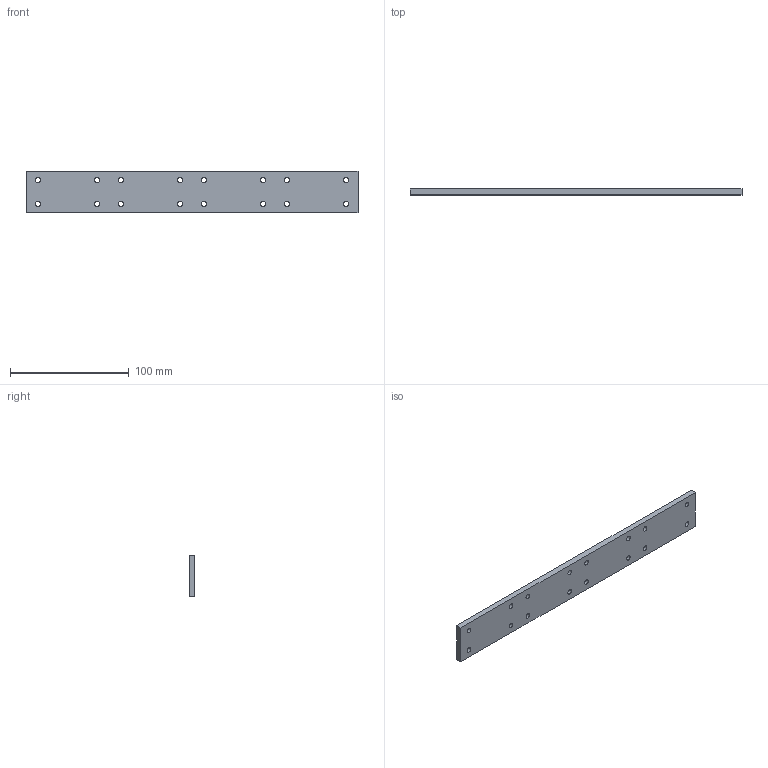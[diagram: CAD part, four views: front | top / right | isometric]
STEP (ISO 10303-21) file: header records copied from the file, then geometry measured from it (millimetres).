
FILE_DESCRIPTION((''),'2;1');
FILE_NAME('0000187212','2024-01-01T18:43:54',('Wyndorps'),(''),'CREO PARAMETRIC BY PTC INC, 2022484','CREO PARAMETRIC BY PTC INC, 2022484','');
FILE_SCHEMA(('CONFIG_CONTROL_DESIGN'));
Length unit declared in the file: millimetre
Products named in the file (1): 0000187212
Bounding box: 280 x 5 x 35 mm (x, y, z)
Volume: 47838.2 mm3; surface area: 23366 mm2
Topology: 1 solids, 1 shells, 38 faces, 116 edges, 80 vertices
Faces by surface type: cylinder 32, plane 6
Entity records: 1450 total; most frequent: DIRECTION 256, CARTESIAN_POINT 234, ORIENTED_EDGE 232, EDGE_CURVE 116, AXIS2_PLACEMENT_3D 102, VERTEX_POINT 80, EDGE_LOOP 70, CIRCLE 64
